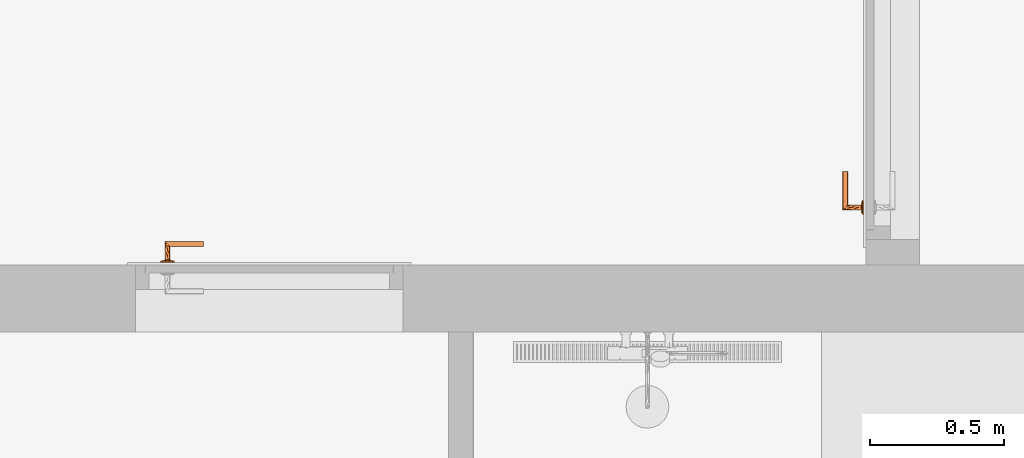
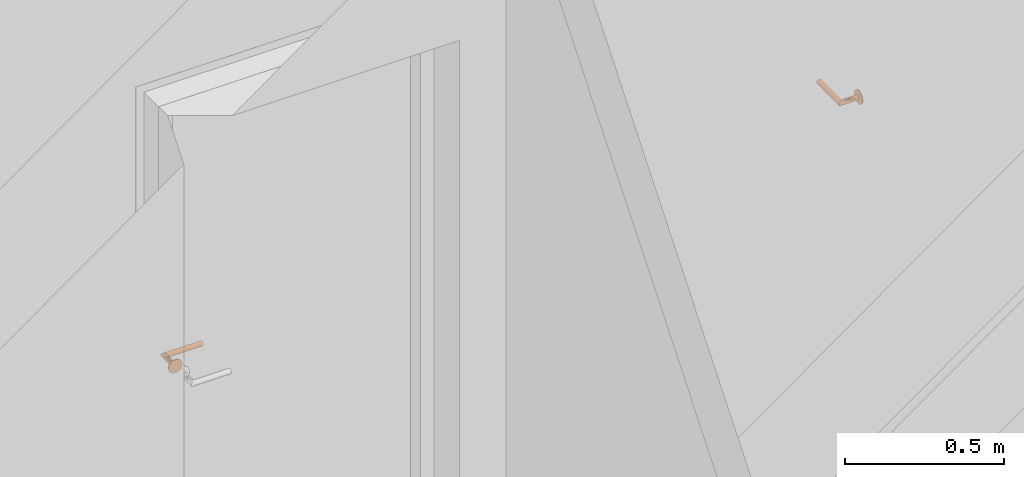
# One storey, part 100 of 125: 2 proxies.
"""IFC2X3 building model written with IfcOpenShell, lengths in millimetres."""

from ifc_helpers import new_model, entity, si_unit, converted_unit, direction, frame, origin, place, context, subcontext, project, spatial, faceted_brep, source, transform, mapped, material, type_object, type_shapes, element, save


model = new_model("IFC2X3")

# Units and contexts
model_context = context("Model", 3, precision=0.01, world=origin(), true_north=direction((6.123233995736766e-17, 1.0)))
plan_context = context("Plan", 3, precision=0.01, world=origin(), true_north=direction((6.123233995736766e-17, 1.0)))
body_context = subcontext(model_context, "Body", "Model", "MODEL_VIEW")
ifc_project = project(units=[si_unit("LENGTHUNIT", "METRE", prefix="MILLI"), converted_unit("PLANEANGLEUNIT", "DEGREE", entity("IfcPlaneAngleMeasure", 0.017453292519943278), si_unit("PLANEANGLEUNIT", "RADIAN"), dimensions=[0, 0, 0, 0, 0, 0, 0]), si_unit("AREAUNIT", "SQUARE_METRE")], contexts=[model_context, plan_context])

# Site, building, storey, space
site_placement = place(None, origin())
site = spatial("IfcSite", under=ifc_project, at=site_placement, Name="Default", CompositionType="ELEMENT")
building_placement = place(site_placement, origin())
building = spatial("IfcBuilding", under=site, at=building_placement, CompositionType="ELEMENT")
storey_placement = place(building_placement, frame((0.0, 0.0, 3125.0)))
storey = spatial("IfcBuildingStorey", under=building, at=storey_placement, Name="2K", CompositionType="ELEMENT", Elevation=3125.0)
space_placement = place(storey_placement, origin())
space = spatial("IfcSpace", under=storey, at=space_placement, Name="2-0.3", CompositionType="ELEMENT", InteriorOrExteriorSpace="INTERNAL")

# Proxies
ifc_material = material(Name="<Unnamed>")
building_element_proxy_type = type_object("IfcBuildingElementProxyType", Name="Door-handle_Lever_ABLOY_INOXI_3-19ss-002_RT:Default", PredefinedType="NOTDEFINED", material=ifc_material)
shared_shape = source(origin(), body_context, "Body", "Brep", [
    faceted_brep([(0.0, 0.0, 0.0), (21.034441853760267, -15.282416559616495, 0.0), (14.534441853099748, -20.00494299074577, 0.0), (8.034441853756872, -24.72746942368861, 0.0), (0.0, -24.72746942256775, 0.0), (23.51722092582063, -7.6412082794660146, 0.0), (26.0, 0.0, 0.0), (-8.034441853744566, -24.727469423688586, 0.0), (-14.534441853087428, -20.00494299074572, 0.0), (-21.03444185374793, -15.282416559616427, 0.0), (-23.517220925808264, -7.641208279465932, 0.0), (-26.0, 0.0, 0.0), (-23.517220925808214, 7.641208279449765, 0.0), (23.517220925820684, 7.641208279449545, 0.0), (21.034441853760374, 15.282416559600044, 0.0), (14.53444185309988, 20.00494299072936, 0.0), (8.034441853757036, 24.72746942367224, 0.0), (-21.034441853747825, 15.282416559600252, 0.0), (-14.53444185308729, 20.004942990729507, 0.0), (-8.0344418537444, 24.72746942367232, 0.0), (0.0, 24.72746942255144, 0.0), (0.0, 0.0, 8.0), (4.7500000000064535, -8.227241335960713, 8.0), (5.937500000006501, -6.170431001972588, 8.0), (7.125000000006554, -4.113620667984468, 8.0), (8.312500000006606, -2.0568103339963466, 8.0), (9.500000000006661, 0.0, 8.0), (8.312500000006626, 2.056810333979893, 8.0), (2.3750000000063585, -8.227241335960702, 8.0), (0.0, -8.227241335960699, 8.0), (-2.3749999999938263, -8.227241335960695, 8.0), (-4.749999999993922, -8.227241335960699, 8.0), (-5.937499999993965, -6.170431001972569, 8.0), (-7.124999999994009, -4.113620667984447, 8.0), (-8.312499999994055, -2.056810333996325, 8.0), (-9.499999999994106, 0.0, 8.0), (7.125000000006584, 4.113620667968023, 8.0), (5.937500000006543, 6.170431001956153, 8.0), (4.750000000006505, 8.227241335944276, 8.0), (2.3750000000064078, 8.22724133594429, 8.0), (-8.31249999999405, 2.0568103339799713, 8.0), (-7.12499999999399, 4.113620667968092, 8.0), (-5.9374999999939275, 6.170431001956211, 8.0), (-4.74999999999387, 8.227241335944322, 8.0), (0.0, 8.227241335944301, 8.0), (-2.374999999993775, 8.227241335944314, 8.0), (-22.488765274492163, -10.806469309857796, 4.030771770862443), (-16.663919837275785, -7.932665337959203, 6.877259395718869), (-20.643071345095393, -6.292822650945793, 5.929480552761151), (-12.50457926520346, -5.179566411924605, 7.774932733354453), (-16.764060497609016, -3.820257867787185, 7.1747985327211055), (-9.071726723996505, -10.311606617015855, 7.7520782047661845), (-11.963426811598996, -8.625290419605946, 7.618343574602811), (-11.979136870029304, -13.678312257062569, 6.945778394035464), (5.7585542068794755, -20.96753300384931, 5.871476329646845), (0.0, -24.72746942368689, 4.030771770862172), (8.03444185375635, -24.727469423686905, 4.030771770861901), (16.66391982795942, -7.932665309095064, 6.877259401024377), (22.488765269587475, -10.806469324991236, 4.03077177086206), (20.64307133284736, -6.29282258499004, 5.929480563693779), (14.534441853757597, -20.004942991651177, 4.030771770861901), (9.499431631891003, -18.64368355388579, 6.154325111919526), (-15.783149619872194, -11.991003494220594, 6.50080018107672), (-21.034441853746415, -15.282416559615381, 4.030771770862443), (-14.53444185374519, -20.00494299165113, 4.030771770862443), (-23.012042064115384, 0.0, 5.135401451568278), (-23.943088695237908, -6.330522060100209, 4.030771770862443), (11.96342678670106, -8.62529049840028, 7.618343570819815), (12.504579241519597, -5.179566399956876, 7.774932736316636), (16.764060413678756, -3.8202578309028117, 7.17479855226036), (15.783149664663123, -11.991003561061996, 6.50080015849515), (17.985351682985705, 0.0, 6.993737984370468), (23.012042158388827, 0.0, 5.135401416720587), (8.661516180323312, -10.478936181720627, 7.768126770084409), (-8.03444185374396, -24.727469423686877, 4.030771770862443), (-3.3573143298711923, -21.197247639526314, 5.971427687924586), (-9.941915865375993, -17.061976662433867, 6.522757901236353), (-5.973257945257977, -16.430139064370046, 7.110979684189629), (-7.711266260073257, -12.760344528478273, 7.594456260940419), (11.979136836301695, -13.678312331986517, 6.945778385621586), (7.511307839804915, -13.358932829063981, 7.529187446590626), (5.953298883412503, -16.50608604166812, 7.096344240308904), (-1.5654593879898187, -15.307443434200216, 7.519134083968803), (-7.784980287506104, -20.476295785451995, 5.812837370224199), (2.8135289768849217, -17.76392260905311, 6.993737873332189), (-17.98535168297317, 0.0, 6.993737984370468), (-26.0, 0.0, 4.030771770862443), (-23.51722092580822, -7.641208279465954, 4.030771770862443), (23.943088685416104, -6.33052209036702, 4.030771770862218), (24.308823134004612, -5.204907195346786, 4.030771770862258), (26.0, 0.0, 4.030771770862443), (21.03444185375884, -15.282416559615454, 4.030771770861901), (22.617646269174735, -10.40981439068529, 4.030771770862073), (22.488765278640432, 10.806469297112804, 4.030771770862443), (16.66391984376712, 7.932665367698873, 6.877259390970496), (20.643071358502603, 6.292822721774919, 5.929480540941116), (12.504579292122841, 5.179566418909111, 7.774932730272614), (16.764060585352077, 3.8202579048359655, 7.174798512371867), (9.07172672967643, 10.31160659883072, 7.752078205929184), (11.963426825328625, 8.62529034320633, 7.618343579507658), (11.979136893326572, 13.67831220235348, 6.9457784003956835), (-5.758554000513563, 20.96753314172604, 5.8714763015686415), (0.0, 24.72746942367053, 4.030771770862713), (-8.03444185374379, 24.72746942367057, 4.030771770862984), (-16.663919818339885, 7.932665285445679, 6.877259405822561), (-22.48876526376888, 10.806469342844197, 4.030771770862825), (-20.643071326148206, 6.2928225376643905, 5.929480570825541), (-14.534441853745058, 20.004942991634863, 4.030771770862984), (-9.499431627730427, 18.643683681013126, 6.154325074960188), (15.783149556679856, 11.991003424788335, 6.5008002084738), (21.03444185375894, 15.282416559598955, 4.030771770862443), (14.534441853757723, 20.004942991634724, 4.030771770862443), (23.943088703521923, 6.330522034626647, 4.030771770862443), (-11.96342675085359, 8.625290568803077, 7.618343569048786), (-12.504579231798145, 5.179566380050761, 7.77493273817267), (-16.764060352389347, 3.820257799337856, 7.174798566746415), (-15.78314967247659, 11.991003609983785, 6.500800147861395), (-8.661516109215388, 10.478936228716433, 7.768126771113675), (8.034441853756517, 24.727469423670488, 4.030771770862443), (3.3573144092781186, 21.197247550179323, 5.971427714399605), (9.941915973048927, 17.061976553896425, 6.522757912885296), (5.9732581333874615, 16.430139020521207, 7.110979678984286), (7.711266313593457, 12.760344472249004, 7.5944562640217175), (-11.979136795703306, 13.678312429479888, 6.945778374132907), (-7.511307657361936, 13.358932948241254, 7.5291874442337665), (-5.9532988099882, 16.50608628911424, 7.096344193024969), (1.5654596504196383, 15.3074431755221, 7.519134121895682), (7.784980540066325, 20.476295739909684, 5.812837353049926), (-2.81352881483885, 17.76392263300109, 6.993737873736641), (23.51722092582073, 7.6412082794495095, 4.030771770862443), (-23.94308867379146, 6.330522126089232, 4.030771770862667), (-24.308823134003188, 5.20490719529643, 4.030771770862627), (-21.034441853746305, 15.282416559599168, 4.030771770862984), (-22.617646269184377, 10.409814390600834, 4.0307717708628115)], [[[0, 1, 2]], [[0, 2, 3]], [[0, 3, 4]], [[0, 5, 1]], [[0, 6, 5]], [[0, 4, 7]], [[0, 7, 8]], [[0, 8, 9]], [[0, 9, 10]], [[0, 10, 11]], [[0, 11, 12]], [[0, 13, 6]], [[0, 14, 13]], [[0, 15, 14]], [[0, 16, 15]], [[0, 12, 17]], [[0, 17, 18]], [[0, 18, 19]], [[0, 19, 20]], [[0, 20, 16]], [[21, 22, 23]], [[21, 23, 24]], [[21, 24, 25]], [[21, 25, 26]], [[21, 26, 27]], [[21, 28, 22]], [[21, 29, 28]], [[21, 30, 29]], [[21, 31, 30]], [[21, 32, 31]], [[21, 33, 32]], [[21, 34, 33]], [[21, 35, 34]], [[21, 27, 36]], [[21, 36, 37]], [[21, 37, 38]], [[21, 38, 39]], [[21, 40, 35]], [[21, 41, 40]], [[21, 42, 41]], [[21, 43, 42]], [[21, 39, 44]], [[21, 44, 45]], [[21, 45, 43]], [[46, 47, 48]], [[47, 49, 50]], [[49, 33, 34]], [[51, 52, 53]], [[49, 52, 33]], [[48, 47, 50]], [[54, 55, 56]], [[57, 58, 59]], [[56, 60, 61]], [[62, 63, 64]], [[65, 66, 48]], [[67, 57, 68]], [[68, 69, 25]], [[57, 67, 70]], [[69, 26, 25]], [[62, 53, 52]], [[71, 69, 72]], [[67, 23, 73]], [[74, 55, 75]], [[76, 77, 78]], [[79, 60, 70]], [[69, 59, 72]], [[80, 81, 61]], [[77, 30, 78]], [[82, 30, 77]], [[28, 80, 22]], [[77, 83, 75]], [[75, 82, 77]], [[55, 84, 75]], [[85, 50, 35]], [[24, 68, 25]], [[82, 84, 29]], [[84, 82, 75]], [[31, 78, 30]], [[82, 29, 30]], [[34, 35, 50]], [[52, 49, 47]], [[62, 52, 47]], [[34, 50, 49]], [[53, 78, 51]], [[32, 33, 52]], [[85, 65, 50]], [[66, 65, 86]], [[67, 68, 24]], [[77, 76, 83]], [[65, 48, 50]], [[63, 62, 46]], [[48, 66, 87, 46]], [[62, 47, 46]], [[69, 68, 57]], [[80, 73, 22]], [[70, 67, 79]], [[67, 24, 23]], [[72, 88, 89, 90]], [[69, 71, 26]], [[59, 69, 57]], [[61, 60, 79]], [[62, 64, 53]], [[91, 58, 70]], [[72, 59, 88]], [[57, 70, 58]], [[59, 58, 92]], [[80, 61, 79]], [[91, 70, 60]], [[61, 81, 54]], [[73, 80, 79]], [[28, 84, 81]], [[67, 73, 79]], [[29, 84, 28]], [[22, 73, 23]], [[51, 31, 32]], [[76, 78, 53]], [[53, 64, 76]], [[83, 64, 74]], [[64, 83, 76]], [[75, 83, 74]], [[31, 51, 78]], [[52, 51, 32]], [[28, 81, 80]], [[54, 81, 84]], [[55, 54, 84]], [[61, 54, 56]], [[93, 94, 95]], [[94, 96, 97]], [[96, 36, 27]], [[98, 99, 100]], [[96, 99, 36]], [[95, 94, 97]], [[101, 102, 103]], [[104, 105, 106]], [[103, 107, 108]], [[109, 110, 111]], [[72, 112, 95]], [[113, 104, 114]], [[114, 115, 40]], [[104, 113, 116]], [[115, 35, 40]], [[109, 100, 99]], [[85, 115, 65]], [[113, 42, 117]], [[118, 102, 119]], [[120, 121, 122]], [[123, 107, 116]], [[115, 106, 65]], [[124, 125, 108]], [[121, 39, 122]], [[126, 39, 121]], [[45, 124, 43]], [[121, 127, 119]], [[119, 126, 121]], [[102, 128, 119]], [[71, 97, 26]], [[41, 114, 40]], [[126, 128, 44]], [[128, 126, 119]], [[38, 122, 39]], [[126, 44, 39]], [[27, 26, 97]], [[99, 96, 94]], [[109, 99, 94]], [[27, 97, 96]], [[100, 122, 98]], [[37, 36, 99]], [[71, 72, 97]], [[112, 72, 90]], [[113, 114, 41]], [[121, 120, 127]], [[72, 95, 97]], [[110, 109, 93]], [[95, 112, 129, 93]], [[109, 94, 93]], [[115, 114, 104]], [[124, 117, 43]], [[116, 113, 123]], [[113, 41, 42]], [[65, 130, 131, 86]], [[115, 85, 35]], [[106, 115, 104]], [[108, 107, 123]], [[109, 111, 100]], [[132, 105, 116]], [[65, 106, 130]], [[104, 116, 105]], [[106, 105, 133]], [[124, 108, 123]], [[132, 116, 107]], [[108, 125, 101]], [[117, 124, 123]], [[45, 128, 125]], [[113, 117, 123]], [[44, 128, 45]], [[43, 117, 42]], [[98, 38, 37]], [[120, 122, 100]], [[100, 111, 120]], [[127, 111, 118]], [[111, 127, 120]], [[119, 127, 118]], [[38, 98, 122]], [[99, 98, 37]], [[45, 125, 124]], [[101, 125, 128]], [[102, 101, 128]], [[108, 101, 103]], [[7, 74, 64, 63, 9, 8]], [[10, 9, 63, 46, 87, 66, 86, 11]], [[6, 90, 89, 88, 92, 1, 5]], [[1, 58, 91]], [[74, 7, 4, 3, 56, 55]], [[60, 56, 3, 2, 1, 91]], [[1, 92, 58]], [[14, 110, 93, 129, 112, 90, 6, 13]], [[111, 110, 14, 15, 16, 118]], [[11, 86, 131, 130, 133, 17, 12]], [[17, 105, 132]], [[118, 16, 20, 19, 103, 102]], [[107, 103, 19, 18, 17, 132]], [[17, 133, 105]], [[59, 92, 88]], [[106, 133, 130]]]),
    faceted_brep([(4.7499999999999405, -8.22724133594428, 8.0), (2.4587809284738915, -9.176295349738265, 8.0), (0.0, -9.499999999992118, 8.0), (-2.4587809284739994, -9.176295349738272, 8.0), (-4.7500000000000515, -8.227241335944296, 8.0), (-6.717514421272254, -6.717514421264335, 8.0), (-8.227241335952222, -4.74999999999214, 8.0), (-9.176295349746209, -2.4587809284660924, 8.0), (-9.500000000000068, 0.0, 8.0), (-9.176295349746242, 2.458780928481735, 8.0), (-8.227241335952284, 4.750000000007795, 8.0), (-6.717514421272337, 6.717514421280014, 8.0), (-4.750000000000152, 8.227241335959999, 8.0), (-2.4587809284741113, 9.176295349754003, 8.0), (0.0, 9.500000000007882, 8.0), (2.4587809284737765, 9.176295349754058, 8.0), (4.7499999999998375, 8.227241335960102, 8.0), (6.717514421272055, 6.717514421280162, 8.0), (8.22724133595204, 4.75000000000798, 8.0), (9.17629534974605, 2.458780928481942, 8.0), (9.499999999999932, 0.0, 8.0), (9.17629534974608, -2.458780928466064, 8.0), (8.227241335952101, -4.749999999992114, 8.0), (6.717514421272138, -6.7175144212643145, 8.0), (-8.227241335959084, 4.7499999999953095, 59.772758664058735), (-6.717514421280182, 6.7175144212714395, 61.282485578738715), (-9.176295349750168, 2.458780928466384, 58.82370465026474), (-4.750000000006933, 8.227241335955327, 63.25000000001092), (-2.4587809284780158, 9.176295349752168, 65.54121907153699), (-9.500000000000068, 0.0, 58.50000000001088), (0.0, 9.50000000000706, 68.0), (4.750000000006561, 8.227241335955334, 72.75000000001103), (2.4587809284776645, 9.17629534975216, 70.45878092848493), (6.717514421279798, 6.7175144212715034, 74.71751442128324), (8.22724133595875, 4.749999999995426, 76.22724133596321), (9.17629534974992, 2.458780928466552, 77.17629534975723), (9.499999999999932, 0.0, 77.50000000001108), (9.176295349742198, -2.4587809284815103, 77.1762953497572), (8.227241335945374, -4.750000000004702, 76.22724133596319), (6.7175144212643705, -6.717514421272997, 74.7175144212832), (4.749999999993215, -8.227241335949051, 72.75000000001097), (2.4587809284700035, -9.17629534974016, 70.45878092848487), (0.0, -9.49999999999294, 68.0), (-2.4587809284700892, -9.176295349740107, 65.54121907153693), (-4.749999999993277, -8.227241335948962, 63.250000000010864), (-6.717514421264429, -6.717514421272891, 61.282485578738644), (-9.176295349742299, -2.458780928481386, 58.8237046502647), (-8.227241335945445, -4.750000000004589, 59.77275866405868), (-135.0, -9.176295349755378, 70.4587809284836), (-135.0, -8.227241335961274, 72.75000000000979), (-135.0, -6.717514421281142, 74.71751442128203), (-135.0, -4.750000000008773, 76.22724133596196), (-135.0, -2.4587809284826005, 77.17629534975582), (-135.0, 0.0, 77.5000000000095), (-135.0, 2.4587809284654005, 77.17629534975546), (-135.0, 4.749999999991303, 76.22724133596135), (-135.0, 6.717514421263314, 74.71751442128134), (-135.0, 8.227241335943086, 72.75000000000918), (-135.0, 9.17629534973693, 70.45878092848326), (-135.0, 9.499999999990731, 68.0), (-135.0, 9.17629534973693, 65.54121907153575), (-135.0, 8.227241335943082, 63.250000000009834), (-135.0, 6.717514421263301, 61.28248557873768), (-135.0, 4.749999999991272, 59.772758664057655), (-135.0, 2.458780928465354, 58.823704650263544), (-135.0, 0.0, 58.50000000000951), (-135.0, -2.458780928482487, 58.82370465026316), (-135.0, -4.750000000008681, 59.772758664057), (-135.0, -6.7175144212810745, 61.28248557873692), (-135.0, -8.227241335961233, 63.25000000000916), (-135.0, -9.176295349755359, 65.54121907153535), (-135.0, -9.500000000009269, 68.0)], [[[0, 1, 2, 3, 4, 5, 6, 7, 8, 9, 10, 11, 12, 13, 14, 15, 16, 17, 18, 19, 20, 21, 22, 23]], [[24, 25, 11, 10]], [[26, 24, 10, 9]], [[14, 27, 28]], [[13, 27, 14]], [[25, 27, 13]], [[29, 26, 9, 8]], [[12, 11, 25]], [[25, 13, 12]], [[28, 30, 15]], [[31, 17, 32]], [[33, 18, 31]], [[19, 34, 35]], [[33, 34, 19]], [[20, 19, 35, 36]], [[16, 15, 30]], [[14, 28, 15]], [[19, 18, 33]], [[17, 31, 18]], [[17, 16, 32]], [[30, 32, 16]], [[20, 36, 37, 21]], [[38, 21, 37]], [[22, 39, 40]], [[38, 39, 21]], [[23, 40, 41]], [[39, 22, 21]], [[1, 42, 43]], [[42, 1, 0]], [[23, 41, 0]], [[23, 22, 40]], [[41, 42, 0]], [[44, 45, 3]], [[43, 44, 2]], [[46, 29, 8, 7]], [[47, 46, 7, 6]], [[45, 47, 6, 5]], [[45, 4, 3]], [[3, 2, 44]], [[5, 4, 45]], [[43, 2, 1]], [[48, 49, 50, 51, 52, 53, 54, 55, 56, 57, 58, 59, 60, 61, 62, 63, 64, 65, 66, 67, 68, 69, 70, 71]], [[64, 63, 24, 26]], [[65, 64, 26, 29]], [[61, 60, 28, 27]], [[62, 61, 27, 25]], [[63, 62, 25, 24]], [[59, 30, 28, 60]], [[57, 56, 33, 31]], [[58, 57, 31, 32]], [[54, 53, 36, 35]], [[55, 54, 35, 34]], [[56, 55, 34, 33]], [[32, 30, 59, 58]], [[52, 51, 38, 37]], [[53, 52, 37, 36]], [[49, 48, 41, 40]], [[50, 49, 40, 39]], [[51, 50, 39, 38]], [[42, 41, 48, 71]], [[69, 68, 45, 44]], [[70, 69, 44, 43]], [[66, 65, 29, 46]], [[67, 66, 46, 47]], [[68, 67, 47, 45]], [[42, 71, 70, 43]]]),
])
type_shapes(building_element_proxy_type, [shared_shape])
for number, where, z_axis, x_axis, name in (
    (1, (9940.0, 6864.999979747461, 1000.0), (-1.0, 0.0, 0.0), (0.0, -1.0, 0.0), "Door-handle_Lever_ABLOY_INOXI_3-19ss-002_RT:Default"),
    (2, (7340.0, 6659.999959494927, 1000.0), (0.0, 1.0, 0.0), (-1.0, 0.0, 0.0), "Door-handle_Lever_ABLOY_INOXI_3-19ss-002_RT:Default"),
):
    element("IfcBuildingElementProxy", number, at=place(space_placement, frame(where, z_axis=z_axis, x_axis=x_axis)), inside=space, type_object=building_element_proxy_type, material=ifc_material, Name=name, ObjectType="Door-handle_Lever_ABLOY_INOXI_3-19ss-002_RT:Default", context=body_context, shape_type="MappedRepresentation", body=[
        mapped(shared_shape, transform((0.0, 0.0, 0.0), scale=1.0)),
    ])

save(model, "model.ifc")
